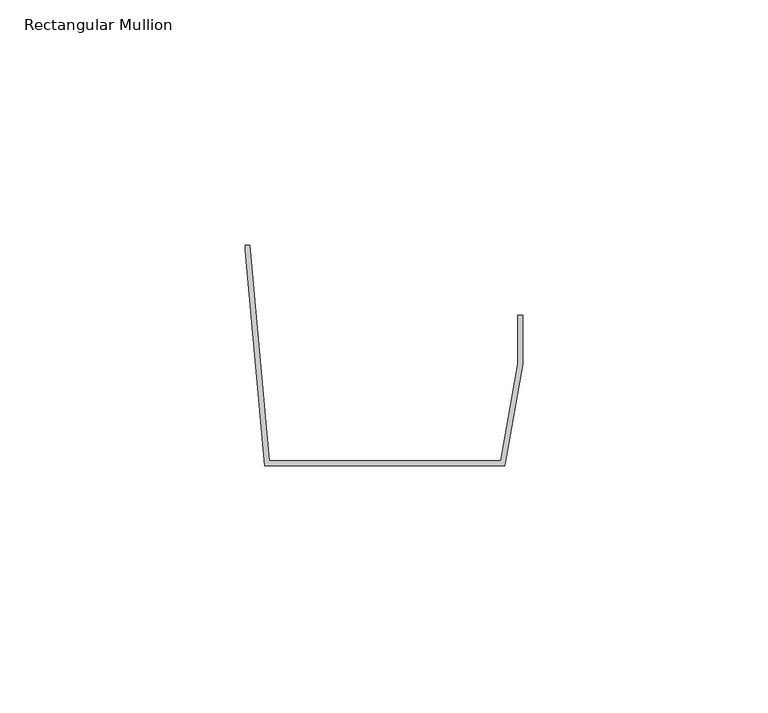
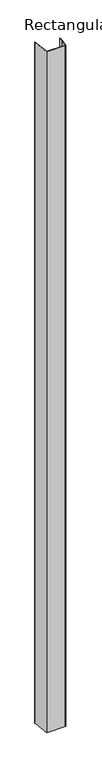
"""IFC4 building model written with IfcOpenShell, lengths in millimetres: member geometry, Rectangular Mullion : CD_NINELINE_Batten End."""

from ifc_helpers import new_model, si_unit, frame, origin, place, context, project, spatial, polyline, outline, extrude, source, transform, mapped, element, save


def rectangular_mullion_a57b35bf(model_context):
    return source(origin(), model_context, "Body", "SweptSolid", [
        extrude(outline(polyline([(-56.6433895, -1.0), (-56.6433895, 0.0), (-55.7301749, 0.0), (-51.7301749, -44.0), (-4.4824892, -44.0), (-1.0, -24.2498225), (-1.0, -14.3373112), (0.0, -14.3373112), (0.0, -24.3373112), (-3.6433895, -45.0), (-52.6433895, -45.0), (-56.6433895, -1.0)])), frame((0.0, 0.0, -1855.0), z_axis=(0.0, 0.0, 1.0), x_axis=(1.0, 0.0, 0.0)), (0.0, 0.0, 1.0), 1855.0),
    ])


if __name__ == "__main__":
    model = new_model("IFC4")
    model_context = context("Model", 3, world=origin())
    ifc_project = project(units=[si_unit("LENGTHUNIT", "METRE", prefix="MILLI")], contexts=[model_context])
    site = spatial("IfcSite", under=ifc_project)
    building = spatial("IfcBuilding", under=site)
    placement = place(None, origin())
    rectangular_mullion_shape = rectangular_mullion_a57b35bf(model_context)
    element("IfcMember", 1, ObjectType="Rectangular Mullion : CD_NINELINE_Batten End", at=placement, inside=building, context=model_context, shape_type="MappedRepresentation", body=[
        mapped(rectangular_mullion_shape, transform((0.0, 0.0, 0.0), x_axis=(1.0, 0.0, 0.0), y_axis=(0.0, 1.0, 0.0), z_axis=(0.0, 0.0, 1.0))),
    ])
    save(model, "model.ifc")
